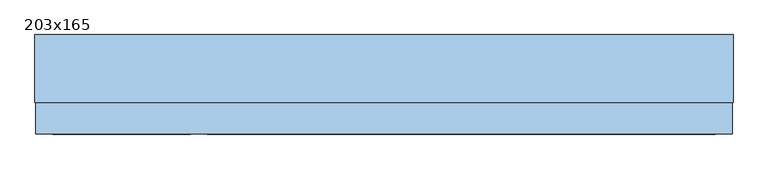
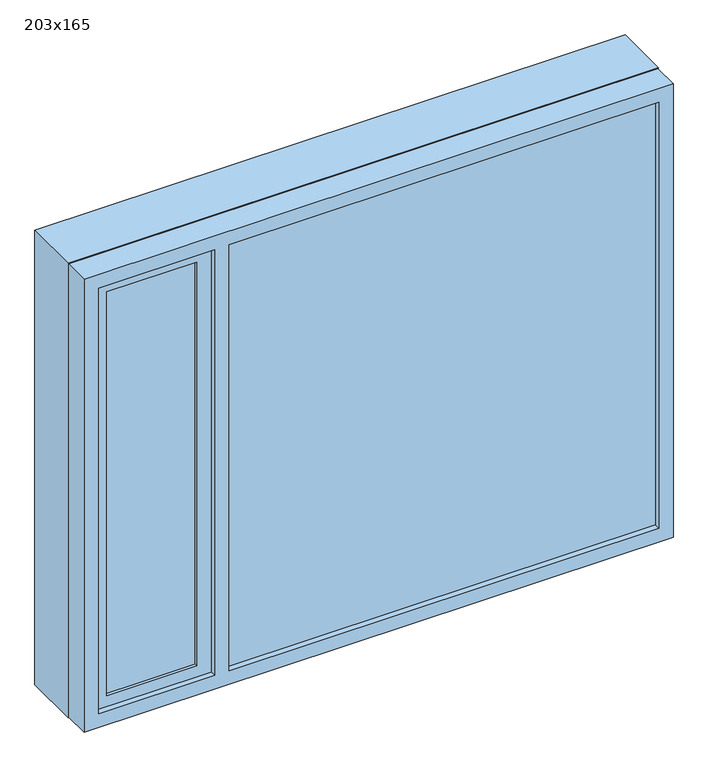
"""IFC4 building model written with IfcOpenShell, lengths in millimetres: window geometry, Vindu 2 felt med åpning side : 203x165."""

from ifc_helpers import new_model, si_unit, frame, origin, place, context, project, spatial, polyline, outline, extrude, source, transform, mapped, element, save


def window_203x165_8ada3300(model_context):
    return source(origin(), model_context, "Body", "SweptSolid", [
        extrude(outline(polyline([(-557.3982693, -95.0), (-557.3982693, -75.0), (922.6017307, -75.0), (922.6017307, -95.0), (-557.3982693, -95.0)])), frame((0.0, 0.0, 852.0), z_axis=(0.0, 0.0, 1.0), x_axis=(1.0, 0.0, 0.0)), (0.0, 0.0, 1.0), 1550.0),
        extrude(outline(polyline([(2402.0, -607.3982693), (2402.0, -1007.3982693), (852.0, -1007.3982693), (852.0, -607.3982693), (2402.0, -607.3982693)]), holes=[polyline([(892.0, -967.3982693), (2362.0, -967.3982693), (2362.0, -657.3982693), (892.0, -657.3982693), (892.0, -967.3982693)])]), frame((0.0, -95.0, 0.0), z_axis=(0.0, 1.0, 0.0), x_axis=(0.0, 0.0, 1.0)), (0.0, 0.0, 1.0), 40.0),
        extrude(outline(polyline([(800.0, 974.6017307), (2454.0, 974.6017307), (2454.0, -1059.3982693), (800.0, -1059.3982693), (800.0, 974.6017307)]), holes=[polyline([(807.0, 967.6017307), (807.0, -1052.3982693), (2447.0, -1052.3982693), (2447.0, 967.6017307), (807.0, 967.6017307)])]), frame((0.0, -23.0, 0.0), z_axis=(0.0, 1.0, 0.0), x_axis=(0.0, 0.0, 1.0)), (0.0, 0.0, 1.0), 198.0),
        extrude(outline(polyline([(-967.3982693, -85.0), (-967.3982693, -65.0), (-657.3982693, -65.0), (-657.3982693, -85.0), (-967.3982693, -85.0)])), frame((0.0, 0.0, 892.0), z_axis=(0.0, 0.0, 1.0), x_axis=(1.0, 0.0, 0.0)), (0.0, 0.0, 1.0), 1470.0),
        extrude(outline(polyline([(2452.0, -1057.3982693), (802.0, -1057.3982693), (802.0, 972.6017307), (2452.0, 972.6017307), (2452.0, -1057.3982693)]), holes=[polyline([(2402.0, -607.3982693), (852.0, -607.3982693), (852.0, -1007.3982693), (2402.0, -1007.3982693), (2402.0, -607.3982693)]), polyline([(2402.0, -557.3982693), (2402.0, 922.6017307), (852.0, 922.6017307), (852.0, -557.3982693), (2402.0, -557.3982693)])]), frame((0.0, -115.0, 0.0), z_axis=(0.0, 1.0, 0.0), x_axis=(0.0, 0.0, 1.0)), (0.0, 0.0, 1.0), 92.0),
    ])


if __name__ == "__main__":
    model = new_model("IFC4")
    model_context = context("Model", 3, world=origin())
    ifc_project = project(units=[si_unit("LENGTHUNIT", "METRE", prefix="MILLI")], contexts=[model_context])
    site = spatial("IfcSite", under=ifc_project)
    building = spatial("IfcBuilding", under=site)
    placement = place(None, origin())
    window_203x165_shape = window_203x165_8ada3300(model_context)
    element("IfcWindow", 1, ObjectType="Vindu 2 felt med åpning side : 203x165", at=placement, inside=building, context=model_context, shape_type="MappedRepresentation", body=[
        mapped(window_203x165_shape, transform((0.0, 0.0, 0.0), x_axis=(1.0, 0.0, 0.0), y_axis=(0.0, 1.0, 0.0), z_axis=(0.0, 0.0, 1.0))),
    ])
    save(model, "model.ifc")
